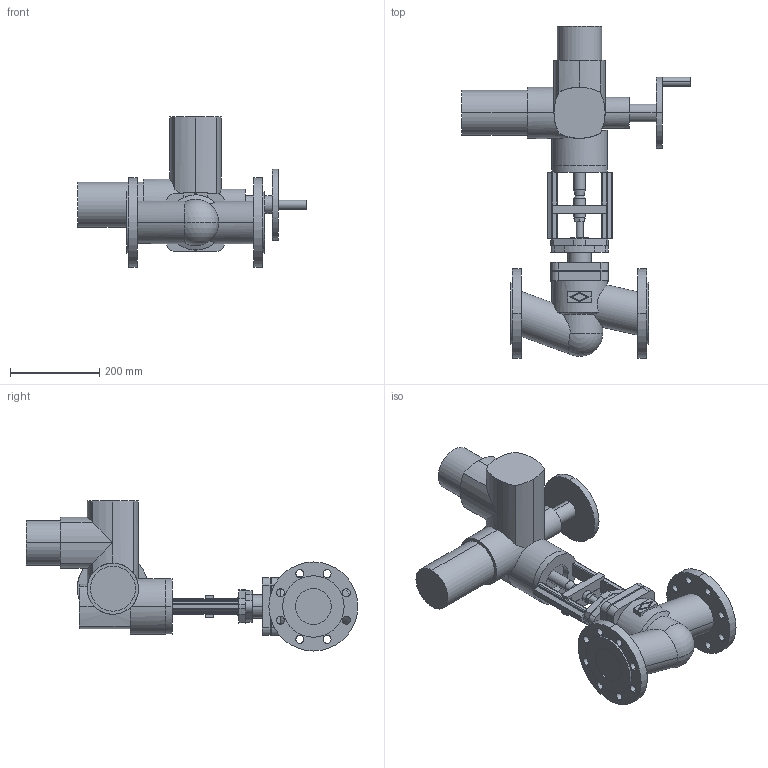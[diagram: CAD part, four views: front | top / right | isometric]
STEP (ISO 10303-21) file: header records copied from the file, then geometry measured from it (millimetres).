
FILE_DESCRIPTION(('OneSpaceDesigner STEP Export'),'2;1');
FILE_NAME('c000003104.stp','2007-01-09T11:42:13',(''),(''),'OneSpace Designer STEP processor for AP214 (Solid Model)','OneSpace Designer 14.00B 27-May-2006 (C) CoCreate Software GmbH','');
FILE_SCHEMA(('AUTOMOTIVE_DESIGN { 1 0 10303 214 1 1 1 1 }'));
Length unit declared in the file: millimetre
Products named in the file (3): 1; 2; 3
Bounding box: 514 x 745.5 x 337 mm (x, y, z)
Volume: 13459671.3 mm3; surface area: 794111 mm2
Topology: 3 solids, 3 shells, 281 faces, 725 edges, 464 vertices
Faces by surface type: cylinder 148, plane 125, cone 6, sphere 2
Entity records: 8414 total; most frequent: CARTESIAN_POINT 1928, ORIENTED_EDGE 1446, DIRECTION 1201, EDGE_CURVE 723, VERTEX_POINT 464, AXIS2_PLACEMENT_3D 406, VECTOR 389, LINE 389
